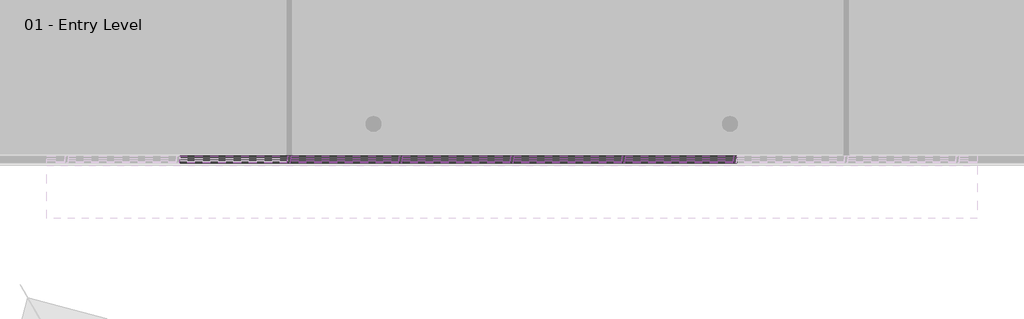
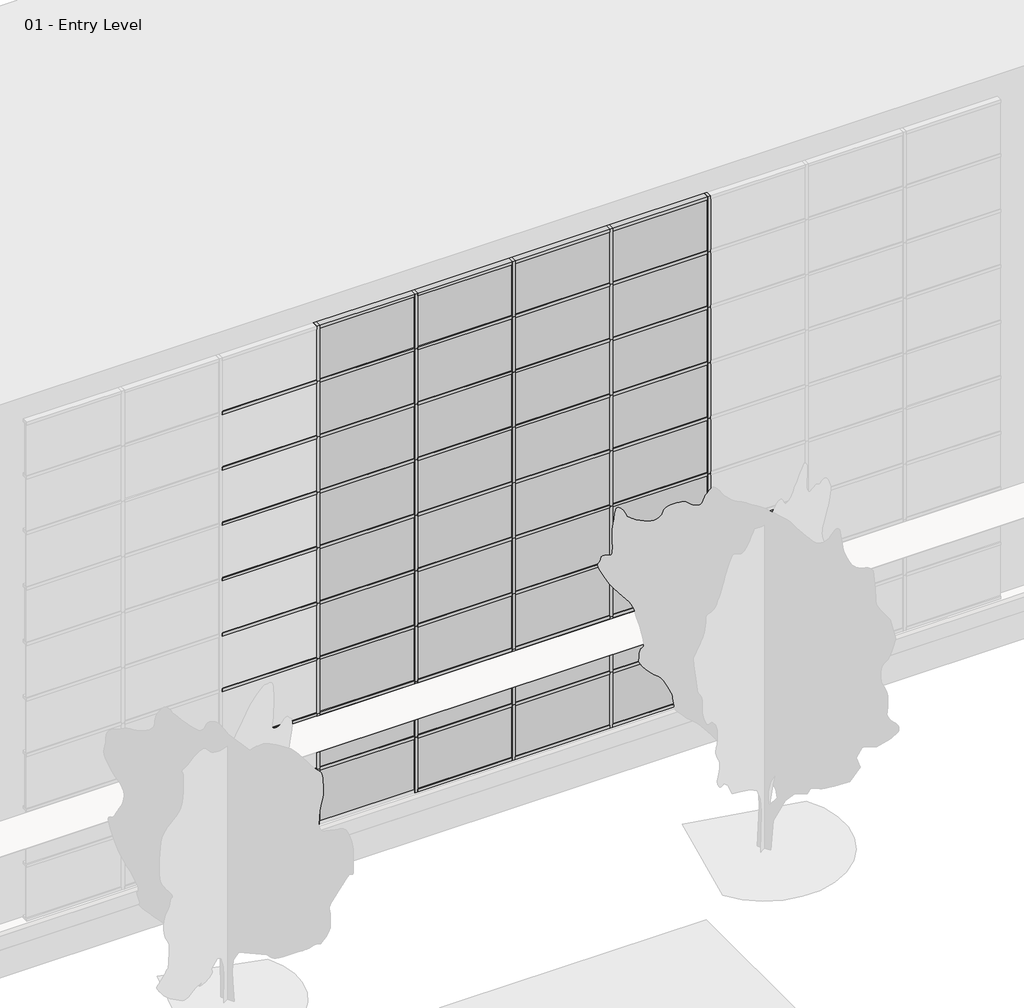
# One storey, part 4 of 35: 93 members, 39 plates.
"""IFC4 building model written with IfcOpenShell, lengths in millimetres."""

import ifcopenshell
import ifcopenshell.guid

model = None  # the IFC model being written
_history = None  # IfcOwnerHistory: only IFC2X3 demands one
_inside = {}  # id of a spatial element -> (the spatial element, [elements in it])
_under = {}  # id of a project, library or spatial element -> (it, [spatial elements below it])
_declared = {}  # id of a project -> (the project, [libraries it declares])
_typed = {}  # id of a type object -> (the type object, [elements of that type])
_made_of = {}  # id of a material, layer set ... -> (it, [elements and type objects made of it])


def new_model(schema):
    """Start an empty IFC model of exactly this schema.

    Asked for "IFC4X3", IfcOpenShell would pick the latest addendum, in which some entities
    have other attributes; the version numbers below select the first issue.
    IFC2X3 requires an IfcOwnerHistory on every rooted entity: one is made here for all.
    """
    global model, _history
    if schema == "IFC4X3":
        model = ifcopenshell.file(schema_version=(4, 3, 0, 0))
    else:
        model = ifcopenshell.file(schema=schema)
    _inside.clear()
    _under.clear()
    _declared.clear()
    _typed.clear()
    _made_of.clear()
    _history = None
    if model.schema == "IFC2X3":
        org = make("IfcOrganization", Name="unknown")
        user = make(
            "IfcPersonAndOrganization",
            ThePerson=make("IfcPerson", FamilyName="unknown"),
            TheOrganization=org,
        )
        app = make(
            "IfcApplication",
            ApplicationDeveloper=org,
            Version="unknown",
            ApplicationFullName="unknown",
            ApplicationIdentifier="unknown",
        )
        _history = make(
            "IfcOwnerHistory",
            OwningUser=user,
            OwningApplication=app,
            ChangeAction="ADDED",
            CreationDate=0,
        )
    return model


def make(cls, **values):
    """One entity of the class cls with the attributes given. An attribute that is None is left unset."""
    return model.create_entity(
        cls, **{name: value for name, value in values.items() if value is not None}
    )


def rooted(cls, **values):
    """An entity with a GlobalId (a new one), such as an element, a storey or a relation."""
    return make(cls, GlobalId=ifcopenshell.guid.new(), OwnerHistory=_history, **values)


def si_unit(unit_type, name, prefix=None):
    """IfcSIUnit, for example si_unit("LENGTHUNIT", "METRE", prefix="MILLI")."""
    return make("IfcSIUnit", UnitType=unit_type, Prefix=prefix, Name=name)


def assignment(units):
    """IfcUnitAssignment: the units of a project."""
    return None if units is None else make("IfcUnitAssignment", Units=units)


def point(xyz):
    """IfcCartesianPoint."""
    return None if xyz is None else make("IfcCartesianPoint", Coordinates=xyz)


def direction(xyz):
    """IfcDirection."""
    return None if xyz is None else make("IfcDirection", DirectionRatios=xyz)


def frame(location, z_axis=None, x_axis=None):
    """IfcAxis2Placement3D, a coordinate frame: its origin and axes. An axis left out is left unset."""
    return make(
        "IfcAxis2Placement3D",
        Location=point(location),
        Axis=direction(z_axis),
        RefDirection=direction(x_axis),
    )


def origin():
    """The frame at (0, 0, 0) with its axes left unset."""
    return frame((0.0, 0.0, 0.0))


def origin_with_axes():
    """The frame at (0, 0, 0) with the z axis (0, 0, 1) and the x axis (1, 0, 0) written out."""
    return frame((0.0, 0.0, 0.0), z_axis=(0.0, 0.0, 1.0), x_axis=(1.0, 0.0, 0.0))


def place(relative_to, where):
    """IfcLocalPlacement: puts the frame where relative to a parent placement (None: the world)."""
    return make(
        "IfcLocalPlacement", PlacementRelTo=relative_to, RelativePlacement=where
    )


def context(
    kind, dimensions, precision=None, world=None, true_north=None, identifier=None
):
    """IfcGeometricRepresentationContext, for example the 3D "Model" context."""
    return make(
        "IfcGeometricRepresentationContext",
        ContextIdentifier=identifier,
        ContextType=kind,
        CoordinateSpaceDimension=dimensions,
        Precision=precision,
        WorldCoordinateSystem=world,
        TrueNorth=true_north,
    )


def project(units=None, contexts=None):
    """IfcProject with its units and contexts."""
    return rooted(
        "IfcProject",
        Name="project",
        RepresentationContexts=contexts,
        UnitsInContext=assignment(units),
    )


def spatial(cls, under=None, at=None, **own):
    """A site, building, storey or space (cls), placed at a placement, below another one or the project."""
    s = rooted(cls, ObjectPlacement=at, **own)
    if under is not None:
        _under.setdefault(under.id(), (under, []))[1].append(s)
    return s


def polyline(points):
    """IfcPolyline through the points."""
    return make("IfcPolyline", Points=[point(p) for p in points])


def outline(outer, holes=None, kind="AREA"):
    """IfcArbitraryClosedProfileDef: a profile drawn as a closed curve; with holes, ...WithVoids."""
    if holes is None:
        return make("IfcArbitraryClosedProfileDef", ProfileType=kind, OuterCurve=outer)
    return make(
        "IfcArbitraryProfileDefWithVoids",
        ProfileType=kind,
        OuterCurve=outer,
        InnerCurves=holes,
    )


def extrude(swept, where, along, depth):
    """IfcExtrudedAreaSolid: the profile swept, set in the frame where, extruded along a direction by depth."""
    return make(
        "IfcExtrudedAreaSolid",
        SweptArea=swept,
        Position=where,
        ExtrudedDirection=direction(along),
        Depth=depth,
    )


def shape(context_of_items, identifier, shape_type, items):
    """IfcShapeRepresentation: the items that make up one representation, for example the "Body"."""
    return make(
        "IfcShapeRepresentation",
        ContextOfItems=context_of_items,
        RepresentationIdentifier=identifier,
        RepresentationType=shape_type,
        Items=items,
    )


def source(mapping_origin, context_of_items, identifier, shape_type, items):
    """IfcRepresentationMap: a shape defined once, which mapped items show again and again."""
    return make(
        "IfcRepresentationMap",
        MappingOrigin=mapping_origin,
        MappedRepresentation=shape(context_of_items, identifier, shape_type, items),
    )


def transform(
    local_origin,
    x_axis=None,
    y_axis=None,
    z_axis=None,
    scale=None,
    scale2=None,
    scale3=None,
    uniform=True,
):
    """IfcCartesianTransformationOperator3D, or its non-uniform kind. x_axis, y_axis, z_axis: its Axis1, 2, 3."""
    if uniform:
        return make(
            "IfcCartesianTransformationOperator3D",
            Axis1=direction(x_axis),
            Axis2=direction(y_axis),
            LocalOrigin=point(local_origin),
            Scale=scale,
            Axis3=direction(z_axis),
        )
    return make(
        "IfcCartesianTransformationOperator3DnonUniform",
        Axis1=direction(x_axis),
        Axis2=direction(y_axis),
        LocalOrigin=point(local_origin),
        Scale=scale,
        Axis3=direction(z_axis),
        Scale2=scale2,
        Scale3=scale3,
    )


def mapped(mapping_source, mapping_target):
    """IfcMappedItem: shows the shape of a source again, moved by a transform."""
    return make(
        "IfcMappedItem", MappingSource=mapping_source, MappingTarget=mapping_target
    )


def made_of(thing, what):
    """Note that an element or type object is made of a material, layer set ...; save() writes the relation."""
    if what is not None:
        _made_of.setdefault(what.id(), (what, []))[1].append(thing)
    return thing


def element(
    cls,
    number,
    at=None,
    inside=None,
    cuts=None,
    type_object=None,
    material=None,
    context=None,
    identifier="Body",
    shape_type=None,
    held_by="IfcProductDefinitionShape",
    body=None,
    shapes=None,
    **own,
):
    """One element of the class cls, such as IfcWall. Its Tag is "e" and its number.

    at: its placement. inside: the storey or other place that contains it. cuts: it is an
    opening in that element (IfcRelVoidsElement). A single representation is given by context,
    identifier, shape_type and body (its items); several are given by shapes. held_by: the class
    of the entity that holds the representations. save() writes the other relations.
    """
    e = rooted(cls, Tag="e%d" % number, ObjectPlacement=at, **own)
    if body is not None:
        shapes = [shape(context, identifier, shape_type, body)]
    if shapes is not None:
        e.Representation = make(held_by, Representations=shapes)
    if inside is not None:
        _inside.setdefault(inside.id(), (inside, []))[1].append(e)
    if cuts is not None:
        rooted(
            "IfcRelVoidsElement", RelatingBuildingElement=cuts, RelatedOpeningElement=e
        )
    if type_object is not None:
        _typed.setdefault(type_object.id(), (type_object, []))[1].append(e)
    return made_of(e, material)


def aggregate(whole, parts):
    """IfcRelAggregates: a whole, such as a stair, and the parts it consists of."""
    return rooted("IfcRelAggregates", RelatingObject=whole, RelatedObjects=parts)


def save(model, path):
    """Write the relations noted so far, then the file.

    IfcRelAggregates (storeys below a building ...), IfcRelContainedInSpatialStructure (elements
    in a storey), IfcRelDefinesByType, IfcRelAssociatesMaterial and IfcRelDeclares: one each for
    every whole, place, type object, material and project.
    """
    for whole, parts in _under.values():
        aggregate(whole, parts)
    for where, things in _inside.values():
        rooted(
            "IfcRelContainedInSpatialStructure",
            RelatedElements=things,
            RelatingStructure=where,
        )
    for kind, things in _typed.values():
        rooted("IfcRelDefinesByType", RelatedObjects=things, RelatingType=kind)
    for what, things in _made_of.values():
        rooted("IfcRelAssociatesMaterial", RelatedObjects=things, RelatingMaterial=what)
    for by, libraries in _declared.values():
        rooted("IfcRelDeclares", RelatingContext=by, RelatedDefinitions=libraries)
    model.write(path)


def member_2b49869a(model_context):
    return source(origin(), model_context, "Body", "SweptSolid", [
        extrude(outline(polyline([(31.75, 63.5), (31.75, -63.5), (-31.75, -63.5), (-31.75, 63.5), (31.75, 63.5)])), frame((0.0, 0.0, -1219.2), z_axis=(0.0, 0.0, 1.0), x_axis=(1.0, 0.0, 0.0)), (0.0, 0.0, 1.0), 1219.2),
    ])


def member_391b434c(model_context):
    return source(origin(), model_context, "Body", "SweptSolid", [
        extrude(outline(polyline([(0.0, 63.5), (0.0, -63.5), (-63.5, -63.5), (-63.5, 63.5), (0.0, 63.5)])), frame((0.0, 0.0, -1968.5), z_axis=(0.0, 0.0, 1.0), x_axis=(1.0, 0.0, 0.0)), (0.0, 0.0, 1.0), 1968.5),
    ])


def member_9e90ae50(model_context):
    return source(origin(), model_context, "Body", "SweptSolid", [
        extrude(outline(polyline([(31.75, 63.5), (31.75, -63.5), (-31.75, -63.5), (-31.75, 63.5), (31.75, 63.5)])), frame((0.0, 0.0, -1968.5), z_axis=(0.0, 0.0, 1.0), x_axis=(1.0, 0.0, 0.0)), (0.0, 0.0, 1.0), 1968.5),
    ])


def system_panel_glazed_1b9d6098(model_context):
    return source(origin(), model_context, "Body", "SweptSolid", [
        extrude(outline(polyline([(984.25, -44.45), (-984.25, -44.45), (-984.25, -19.05), (984.25, -19.05), (984.25, -44.45)])), origin_with_axes(), (0.0, 0.0, 1.0), 1123.95),
    ])


def system_panel_glazed_70da479d(model_context):
    return source(origin(), model_context, "Body", "SweptSolid", [
        extrude(outline(polyline([(984.25, -44.45), (-984.25, -44.45), (-984.25, -19.05), (984.25, -19.05), (984.25, -44.45)])), origin_with_axes(), (0.0, 0.0, 1.0), 1155.7),
    ])


def system_panel_solid_b376696c(model_context):
    return source(origin(), model_context, "Body", "SweptSolid", [
        extrude(outline(polyline([(984.25, -44.45), (-984.25, -44.45), (-984.25, 19.05), (984.25, 19.05), (984.25, -44.45)])), origin_with_axes(), (0.0, 0.0, 1.0), 1123.95),
    ])


def system_panel_solid_77e8b053(model_context):
    return source(origin(), model_context, "Body", "SweptSolid", [
        extrude(outline(polyline([(984.25, -44.45), (-984.25, -44.45), (-984.25, 19.05), (984.25, 19.05), (984.25, -44.45)])), origin_with_axes(), (0.0, 0.0, 1.0), 1155.7),
    ])


model = new_model("IFC4")

# Units and contexts
model_context = context("Model", 3, world=origin())
ifc_project = project(units=[si_unit("LENGTHUNIT", "METRE", prefix="MILLI")], contexts=[model_context])

# Site, building, storey
site = spatial("IfcSite", under=ifc_project)
building = spatial("IfcBuilding", under=site)
storey = spatial("IfcBuildingStorey", under=building, Name="01 - Entry Level", Elevation=0.0)

# Members
placement = place(None, origin())
member_shape = member_2b49869a(model_context)
element("IfcMember", 1, ObjectType="Rectangular Mullion : 2.5\" x 5\" rectangular", at=placement, inside=storey, context=model_context, shape_type="MappedRepresentation", body=[
    mapped(member_shape, transform((40755.2207476, -47.7, 9753.6), x_axis=(1.0, 0.0, 0.0), y_axis=(0.0, -1.0, 0.0), z_axis=(0.0, 0.0, -1.0))),
])
element("IfcMember", 2, ObjectType="Rectangular Mullion : 2.5\" x 5\" rectangular", at=placement, inside=storey, context=model_context, shape_type="MappedRepresentation", body=[
    mapped(member_shape, transform((42787.2207476, -47.7, 9753.6), x_axis=(1.0, 0.0, 0.0), y_axis=(0.0, -1.0, 0.0), z_axis=(0.0, 0.0, -1.0))),
])
element("IfcMember", 3, ObjectType="Rectangular Mullion : 2.5\" x 5\" rectangular", at=placement, inside=storey, context=model_context, shape_type="MappedRepresentation", body=[
    mapped(member_shape, transform((44819.2207476, -47.7, 9753.6), x_axis=(1.0, 0.0, 0.0), y_axis=(0.0, -1.0, 0.0), z_axis=(0.0, 0.0, -1.0))),
])
element("IfcMember", 4, ObjectType="Rectangular Mullion : 2.5\" x 5\" rectangular", at=placement, inside=storey, context=model_context, shape_type="MappedRepresentation", body=[
    mapped(member_shape, transform((46851.2207476, -47.7, 9753.6), x_axis=(1.0, 0.0, 0.0), y_axis=(0.0, -1.0, 0.0), z_axis=(0.0, 0.0, -1.0))),
])
element("IfcMember", 5, ObjectType="Rectangular Mullion : 2.5\" x 5\" rectangular", at=placement, inside=storey, context=model_context, shape_type="MappedRepresentation", body=[
    mapped(member_shape, transform((48883.2207476, -47.7, 9753.6), x_axis=(1.0, 0.0, 0.0), y_axis=(0.0, -1.0, 0.0), z_axis=(0.0, 0.0, -1.0))),
])
member_2_shape = member_391b434c(model_context)
element("IfcMember", 6, ObjectType="Rectangular Mullion : 2.5\" x 5\" rectangular", at=placement, inside=storey, context=model_context, shape_type="MappedRepresentation", body=[
    mapped(member_2_shape, transform((42755.4707476, -47.7, 10972.8), x_axis=(0.0, 0.0, 1.0), y_axis=(0.0, -1.0, 0.0), z_axis=(1.0, 0.0, 0.0))),
])
element("IfcMember", 7, ObjectType="Rectangular Mullion : 2.5\" x 5\" rectangular", at=placement, inside=storey, context=model_context, shape_type="MappedRepresentation", body=[
    mapped(member_2_shape, transform((44787.4707476, -47.7, 10972.8), x_axis=(0.0, 0.0, 1.0), y_axis=(0.0, -1.0, 0.0), z_axis=(1.0, 0.0, 0.0))),
])
element("IfcMember", 8, ObjectType="Rectangular Mullion : 2.5\" x 5\" rectangular", at=placement, inside=storey, context=model_context, shape_type="MappedRepresentation", body=[
    mapped(member_2_shape, transform((46819.4707476, -47.7, 10972.8), x_axis=(0.0, 0.0, 1.0), y_axis=(0.0, -1.0, 0.0), z_axis=(1.0, 0.0, 0.0))),
])
element("IfcMember", 9, ObjectType="Rectangular Mullion : 2.5\" x 5\" rectangular", at=placement, inside=storey, context=model_context, shape_type="MappedRepresentation", body=[
    mapped(member_2_shape, transform((48851.4707476, -47.7, 10972.8), x_axis=(0.0, 0.0, 1.0), y_axis=(0.0, -1.0, 0.0), z_axis=(1.0, 0.0, 0.0))),
])
element("IfcMember", 10, ObjectType="Rectangular Mullion : 2.5\" x 5\" rectangular", at=placement, inside=storey, context=model_context, shape_type="MappedRepresentation", body=[
    mapped(member_2_shape, transform((42818.9707476, -47.7, 0.0), x_axis=(0.0, 0.0, -1.0), y_axis=(0.0, -1.0, 0.0), z_axis=(-1.0, 0.0, 0.0))),
])
element("IfcMember", 11, ObjectType="Rectangular Mullion : 2.5\" x 5\" rectangular", at=placement, inside=storey, context=model_context, shape_type="MappedRepresentation", body=[
    mapped(member_2_shape, transform((44850.9707476, -47.7, 0.0), x_axis=(0.0, 0.0, -1.0), y_axis=(0.0, -1.0, 0.0), z_axis=(-1.0, 0.0, 0.0))),
])
element("IfcMember", 12, ObjectType="Rectangular Mullion : 2.5\" x 5\" rectangular", at=placement, inside=storey, context=model_context, shape_type="MappedRepresentation", body=[
    mapped(member_2_shape, transform((46882.9707476, -47.7, 0.0), x_axis=(0.0, 0.0, -1.0), y_axis=(0.0, -1.0, 0.0), z_axis=(-1.0, 0.0, 0.0))),
])
element("IfcMember", 13, ObjectType="Rectangular Mullion : 2.5\" x 5\" rectangular", at=placement, inside=storey, context=model_context, shape_type="MappedRepresentation", body=[
    mapped(member_2_shape, transform((48914.9707476, -47.7, 0.0), x_axis=(0.0, 0.0, -1.0), y_axis=(0.0, -1.0, 0.0), z_axis=(-1.0, 0.0, 0.0))),
])
member_3_shape = member_9e90ae50(model_context)
element("IfcMember", 14, ObjectType="Rectangular Mullion : 2.5\" x 5\" rectangular", at=placement, inside=storey, context=model_context, shape_type="MappedRepresentation", body=[
    mapped(member_3_shape, transform((40723.4707476, -47.7, 1219.2), x_axis=(0.0, 0.0, 1.0), y_axis=(0.0, -1.0, 0.0), z_axis=(1.0, 0.0, 0.0))),
])
element("IfcMember", 15, ObjectType="Rectangular Mullion : 2.5\" x 5\" rectangular", at=placement, inside=storey, context=model_context, shape_type="MappedRepresentation", body=[
    mapped(member_3_shape, transform((42755.4707476, -47.7, 1219.2), x_axis=(0.0, 0.0, 1.0), y_axis=(0.0, -1.0, 0.0), z_axis=(1.0, 0.0, 0.0))),
])
element("IfcMember", 16, ObjectType="Rectangular Mullion : 2.5\" x 5\" rectangular", at=placement, inside=storey, context=model_context, shape_type="MappedRepresentation", body=[
    mapped(member_3_shape, transform((44787.4707476, -47.7, 1219.2), x_axis=(0.0, 0.0, 1.0), y_axis=(0.0, -1.0, 0.0), z_axis=(1.0, 0.0, 0.0))),
])
element("IfcMember", 17, ObjectType="Rectangular Mullion : 2.5\" x 5\" rectangular", at=placement, inside=storey, context=model_context, shape_type="MappedRepresentation", body=[
    mapped(member_3_shape, transform((46819.4707476, -47.7, 1219.2), x_axis=(0.0, 0.0, 1.0), y_axis=(0.0, -1.0, 0.0), z_axis=(1.0, 0.0, 0.0))),
])
element("IfcMember", 18, ObjectType="Rectangular Mullion : 2.5\" x 5\" rectangular", at=placement, inside=storey, context=model_context, shape_type="MappedRepresentation", body=[
    mapped(member_3_shape, transform((48851.4707476, -47.7, 1219.2), x_axis=(0.0, 0.0, 1.0), y_axis=(0.0, -1.0, 0.0), z_axis=(1.0, 0.0, 0.0))),
])
element("IfcMember", 19, ObjectType="Rectangular Mullion : 2.5\" x 5\" rectangular", at=placement, inside=storey, context=model_context, shape_type="MappedRepresentation", body=[
    mapped(member_3_shape, transform((40723.4707476, -47.7, 2438.4), x_axis=(0.0, 0.0, 1.0), y_axis=(0.0, -1.0, 0.0), z_axis=(1.0, 0.0, 0.0))),
])
element("IfcMember", 20, ObjectType="Rectangular Mullion : 2.5\" x 5\" rectangular", at=placement, inside=storey, context=model_context, shape_type="MappedRepresentation", body=[
    mapped(member_3_shape, transform((42755.4707476, -47.7, 2438.4), x_axis=(0.0, 0.0, 1.0), y_axis=(0.0, -1.0, 0.0), z_axis=(1.0, 0.0, 0.0))),
])
element("IfcMember", 21, ObjectType="Rectangular Mullion : 2.5\" x 5\" rectangular", at=placement, inside=storey, context=model_context, shape_type="MappedRepresentation", body=[
    mapped(member_3_shape, transform((44787.4707476, -47.7, 2438.4), x_axis=(0.0, 0.0, 1.0), y_axis=(0.0, -1.0, 0.0), z_axis=(1.0, 0.0, 0.0))),
])
element("IfcMember", 22, ObjectType="Rectangular Mullion : 2.5\" x 5\" rectangular", at=placement, inside=storey, context=model_context, shape_type="MappedRepresentation", body=[
    mapped(member_3_shape, transform((46819.4707476, -47.7, 2438.4), x_axis=(0.0, 0.0, 1.0), y_axis=(0.0, -1.0, 0.0), z_axis=(1.0, 0.0, 0.0))),
])
element("IfcMember", 23, ObjectType="Rectangular Mullion : 2.5\" x 5\" rectangular", at=placement, inside=storey, context=model_context, shape_type="MappedRepresentation", body=[
    mapped(member_3_shape, transform((48851.4707476, -47.7, 2438.4), x_axis=(0.0, 0.0, 1.0), y_axis=(0.0, -1.0, 0.0), z_axis=(1.0, 0.0, 0.0))),
])
element("IfcMember", 24, ObjectType="Rectangular Mullion : 2.5\" x 5\" rectangular", at=placement, inside=storey, context=model_context, shape_type="MappedRepresentation", body=[
    mapped(member_3_shape, transform((40723.4707476, -47.7, 3657.6), x_axis=(0.0, 0.0, 1.0), y_axis=(0.0, -1.0, 0.0), z_axis=(1.0, 0.0, 0.0))),
])
element("IfcMember", 25, ObjectType="Rectangular Mullion : 2.5\" x 5\" rectangular", at=placement, inside=storey, context=model_context, shape_type="MappedRepresentation", body=[
    mapped(member_3_shape, transform((42755.4707476, -47.7, 3657.6), x_axis=(0.0, 0.0, 1.0), y_axis=(0.0, -1.0, 0.0), z_axis=(1.0, 0.0, 0.0))),
])
element("IfcMember", 26, ObjectType="Rectangular Mullion : 2.5\" x 5\" rectangular", at=placement, inside=storey, context=model_context, shape_type="MappedRepresentation", body=[
    mapped(member_3_shape, transform((44787.4707476, -47.7, 3657.6), x_axis=(0.0, 0.0, 1.0), y_axis=(0.0, -1.0, 0.0), z_axis=(1.0, 0.0, 0.0))),
])
element("IfcMember", 27, ObjectType="Rectangular Mullion : 2.5\" x 5\" rectangular", at=placement, inside=storey, context=model_context, shape_type="MappedRepresentation", body=[
    mapped(member_3_shape, transform((46819.4707476, -47.7, 3657.6), x_axis=(0.0, 0.0, 1.0), y_axis=(0.0, -1.0, 0.0), z_axis=(1.0, 0.0, 0.0))),
])
element("IfcMember", 28, ObjectType="Rectangular Mullion : 2.5\" x 5\" rectangular", at=placement, inside=storey, context=model_context, shape_type="MappedRepresentation", body=[
    mapped(member_3_shape, transform((48851.4707476, -47.7, 3657.6), x_axis=(0.0, 0.0, 1.0), y_axis=(0.0, -1.0, 0.0), z_axis=(1.0, 0.0, 0.0))),
])
element("IfcMember", 29, ObjectType="Rectangular Mullion : 2.5\" x 5\" rectangular", at=placement, inside=storey, context=model_context, shape_type="MappedRepresentation", body=[
    mapped(member_3_shape, transform((40723.4707476, -47.7, 4876.8), x_axis=(0.0, 0.0, 1.0), y_axis=(0.0, -1.0, 0.0), z_axis=(1.0, 0.0, 0.0))),
])
element("IfcMember", 30, ObjectType="Rectangular Mullion : 2.5\" x 5\" rectangular", at=placement, inside=storey, context=model_context, shape_type="MappedRepresentation", body=[
    mapped(member_3_shape, transform((42755.4707476, -47.7, 4876.8), x_axis=(0.0, 0.0, 1.0), y_axis=(0.0, -1.0, 0.0), z_axis=(1.0, 0.0, 0.0))),
])
element("IfcMember", 31, ObjectType="Rectangular Mullion : 2.5\" x 5\" rectangular", at=placement, inside=storey, context=model_context, shape_type="MappedRepresentation", body=[
    mapped(member_3_shape, transform((44787.4707476, -47.7, 4876.8), x_axis=(0.0, 0.0, 1.0), y_axis=(0.0, -1.0, 0.0), z_axis=(1.0, 0.0, 0.0))),
])
element("IfcMember", 32, ObjectType="Rectangular Mullion : 2.5\" x 5\" rectangular", at=placement, inside=storey, context=model_context, shape_type="MappedRepresentation", body=[
    mapped(member_3_shape, transform((46819.4707476, -47.7, 4876.8), x_axis=(0.0, 0.0, 1.0), y_axis=(0.0, -1.0, 0.0), z_axis=(1.0, 0.0, 0.0))),
])
element("IfcMember", 33, ObjectType="Rectangular Mullion : 2.5\" x 5\" rectangular", at=placement, inside=storey, context=model_context, shape_type="MappedRepresentation", body=[
    mapped(member_3_shape, transform((48851.4707476, -47.7, 4876.8), x_axis=(0.0, 0.0, 1.0), y_axis=(0.0, -1.0, 0.0), z_axis=(1.0, 0.0, 0.0))),
])
element("IfcMember", 34, ObjectType="Rectangular Mullion : 2.5\" x 5\" rectangular", at=placement, inside=storey, context=model_context, shape_type="MappedRepresentation", body=[
    mapped(member_3_shape, transform((40723.4707476, -47.7, 6096.0), x_axis=(0.0, 0.0, 1.0), y_axis=(0.0, -1.0, 0.0), z_axis=(1.0, 0.0, 0.0))),
])
element("IfcMember", 35, ObjectType="Rectangular Mullion : 2.5\" x 5\" rectangular", at=placement, inside=storey, context=model_context, shape_type="MappedRepresentation", body=[
    mapped(member_3_shape, transform((42755.4707476, -47.7, 6096.0), x_axis=(0.0, 0.0, 1.0), y_axis=(0.0, -1.0, 0.0), z_axis=(1.0, 0.0, 0.0))),
])
element("IfcMember", 36, ObjectType="Rectangular Mullion : 2.5\" x 5\" rectangular", at=placement, inside=storey, context=model_context, shape_type="MappedRepresentation", body=[
    mapped(member_3_shape, transform((44787.4707476, -47.7, 6096.0), x_axis=(0.0, 0.0, 1.0), y_axis=(0.0, -1.0, 0.0), z_axis=(1.0, 0.0, 0.0))),
])
element("IfcMember", 37, ObjectType="Rectangular Mullion : 2.5\" x 5\" rectangular", at=placement, inside=storey, context=model_context, shape_type="MappedRepresentation", body=[
    mapped(member_3_shape, transform((46819.4707476, -47.7, 6096.0), x_axis=(0.0, 0.0, 1.0), y_axis=(0.0, -1.0, 0.0), z_axis=(1.0, 0.0, 0.0))),
])
element("IfcMember", 38, ObjectType="Rectangular Mullion : 2.5\" x 5\" rectangular", at=placement, inside=storey, context=model_context, shape_type="MappedRepresentation", body=[
    mapped(member_3_shape, transform((48851.4707476, -47.7, 6096.0), x_axis=(0.0, 0.0, 1.0), y_axis=(0.0, -1.0, 0.0), z_axis=(1.0, 0.0, 0.0))),
])
element("IfcMember", 39, ObjectType="Rectangular Mullion : 2.5\" x 5\" rectangular", at=placement, inside=storey, context=model_context, shape_type="MappedRepresentation", body=[
    mapped(member_3_shape, transform((40723.4707476, -47.7, 7315.2), x_axis=(0.0, 0.0, 1.0), y_axis=(0.0, -1.0, 0.0), z_axis=(1.0, 0.0, 0.0))),
])
element("IfcMember", 40, ObjectType="Rectangular Mullion : 2.5\" x 5\" rectangular", at=placement, inside=storey, context=model_context, shape_type="MappedRepresentation", body=[
    mapped(member_3_shape, transform((42755.4707476, -47.7, 7315.2), x_axis=(0.0, 0.0, 1.0), y_axis=(0.0, -1.0, 0.0), z_axis=(1.0, 0.0, 0.0))),
])
element("IfcMember", 41, ObjectType="Rectangular Mullion : 2.5\" x 5\" rectangular", at=placement, inside=storey, context=model_context, shape_type="MappedRepresentation", body=[
    mapped(member_3_shape, transform((44787.4707476, -47.7, 7315.2), x_axis=(0.0, 0.0, 1.0), y_axis=(0.0, -1.0, 0.0), z_axis=(1.0, 0.0, 0.0))),
])
element("IfcMember", 42, ObjectType="Rectangular Mullion : 2.5\" x 5\" rectangular", at=placement, inside=storey, context=model_context, shape_type="MappedRepresentation", body=[
    mapped(member_3_shape, transform((46819.4707476, -47.7, 7315.2), x_axis=(0.0, 0.0, 1.0), y_axis=(0.0, -1.0, 0.0), z_axis=(1.0, 0.0, 0.0))),
])
element("IfcMember", 43, ObjectType="Rectangular Mullion : 2.5\" x 5\" rectangular", at=placement, inside=storey, context=model_context, shape_type="MappedRepresentation", body=[
    mapped(member_3_shape, transform((48851.4707476, -47.7, 7315.2), x_axis=(0.0, 0.0, 1.0), y_axis=(0.0, -1.0, 0.0), z_axis=(1.0, 0.0, 0.0))),
])
element("IfcMember", 44, ObjectType="Rectangular Mullion : 2.5\" x 5\" rectangular", at=placement, inside=storey, context=model_context, shape_type="MappedRepresentation", body=[
    mapped(member_3_shape, transform((40723.4707476, -47.7, 8534.4), x_axis=(0.0, 0.0, 1.0), y_axis=(0.0, -1.0, 0.0), z_axis=(1.0, 0.0, 0.0))),
])
element("IfcMember", 45, ObjectType="Rectangular Mullion : 2.5\" x 5\" rectangular", at=placement, inside=storey, context=model_context, shape_type="MappedRepresentation", body=[
    mapped(member_3_shape, transform((42755.4707476, -47.7, 8534.4), x_axis=(0.0, 0.0, 1.0), y_axis=(0.0, -1.0, 0.0), z_axis=(1.0, 0.0, 0.0))),
])
element("IfcMember", 46, ObjectType="Rectangular Mullion : 2.5\" x 5\" rectangular", at=placement, inside=storey, context=model_context, shape_type="MappedRepresentation", body=[
    mapped(member_3_shape, transform((44787.4707476, -47.7, 8534.4), x_axis=(0.0, 0.0, 1.0), y_axis=(0.0, -1.0, 0.0), z_axis=(1.0, 0.0, 0.0))),
])
element("IfcMember", 47, ObjectType="Rectangular Mullion : 2.5\" x 5\" rectangular", at=placement, inside=storey, context=model_context, shape_type="MappedRepresentation", body=[
    mapped(member_3_shape, transform((46819.4707476, -47.7, 8534.4), x_axis=(0.0, 0.0, 1.0), y_axis=(0.0, -1.0, 0.0), z_axis=(1.0, 0.0, 0.0))),
])
element("IfcMember", 48, ObjectType="Rectangular Mullion : 2.5\" x 5\" rectangular", at=placement, inside=storey, context=model_context, shape_type="MappedRepresentation", body=[
    mapped(member_3_shape, transform((48851.4707476, -47.7, 8534.4), x_axis=(0.0, 0.0, 1.0), y_axis=(0.0, -1.0, 0.0), z_axis=(1.0, 0.0, 0.0))),
])
element("IfcMember", 49, ObjectType="Rectangular Mullion : 2.5\" x 5\" rectangular", at=placement, inside=storey, context=model_context, shape_type="MappedRepresentation", body=[
    mapped(member_3_shape, transform((40723.4707476, -47.7, 9753.6), x_axis=(0.0, 0.0, 1.0), y_axis=(0.0, -1.0, 0.0), z_axis=(1.0, 0.0, 0.0))),
])
element("IfcMember", 50, ObjectType="Rectangular Mullion : 2.5\" x 5\" rectangular", at=placement, inside=storey, context=model_context, shape_type="MappedRepresentation", body=[
    mapped(member_3_shape, transform((42755.4707476, -47.7, 9753.6), x_axis=(0.0, 0.0, 1.0), y_axis=(0.0, -1.0, 0.0), z_axis=(1.0, 0.0, 0.0))),
])
element("IfcMember", 51, ObjectType="Rectangular Mullion : 2.5\" x 5\" rectangular", at=placement, inside=storey, context=model_context, shape_type="MappedRepresentation", body=[
    mapped(member_3_shape, transform((44787.4707476, -47.7, 9753.6), x_axis=(0.0, 0.0, 1.0), y_axis=(0.0, -1.0, 0.0), z_axis=(1.0, 0.0, 0.0))),
])
element("IfcMember", 52, ObjectType="Rectangular Mullion : 2.5\" x 5\" rectangular", at=placement, inside=storey, context=model_context, shape_type="MappedRepresentation", body=[
    mapped(member_3_shape, transform((46819.4707476, -47.7, 9753.6), x_axis=(0.0, 0.0, 1.0), y_axis=(0.0, -1.0, 0.0), z_axis=(1.0, 0.0, 0.0))),
])
element("IfcMember", 53, ObjectType="Rectangular Mullion : 2.5\" x 5\" rectangular", at=placement, inside=storey, context=model_context, shape_type="MappedRepresentation", body=[
    mapped(member_3_shape, transform((48851.4707476, -47.7, 9753.6), x_axis=(0.0, 0.0, 1.0), y_axis=(0.0, -1.0, 0.0), z_axis=(1.0, 0.0, 0.0))),
])
element("IfcMember", 54, ObjectType="Rectangular Mullion : 2.5\" x 5\" rectangular", at=placement, inside=storey, context=model_context, shape_type="MappedRepresentation", body=[
    mapped(member_shape, transform((40755.2207476, -47.7, 0.0), x_axis=(1.0, 0.0, 0.0), y_axis=(0.0, -1.0, 0.0), z_axis=(0.0, 0.0, -1.0))),
])
element("IfcMember", 55, ObjectType="Rectangular Mullion : 2.5\" x 5\" rectangular", at=placement, inside=storey, context=model_context, shape_type="MappedRepresentation", body=[
    mapped(member_shape, transform((42787.2207476, -47.7, 0.0), x_axis=(1.0, 0.0, 0.0), y_axis=(0.0, -1.0, 0.0), z_axis=(0.0, 0.0, -1.0))),
])
element("IfcMember", 56, ObjectType="Rectangular Mullion : 2.5\" x 5\" rectangular", at=placement, inside=storey, context=model_context, shape_type="MappedRepresentation", body=[
    mapped(member_shape, transform((44819.2207476, -47.7, 0.0), x_axis=(1.0, 0.0, 0.0), y_axis=(0.0, -1.0, 0.0), z_axis=(0.0, 0.0, -1.0))),
])
element("IfcMember", 57, ObjectType="Rectangular Mullion : 2.5\" x 5\" rectangular", at=placement, inside=storey, context=model_context, shape_type="MappedRepresentation", body=[
    mapped(member_shape, transform((46851.2207476, -47.7, 0.0), x_axis=(1.0, 0.0, 0.0), y_axis=(0.0, -1.0, 0.0), z_axis=(0.0, 0.0, -1.0))),
])
element("IfcMember", 58, ObjectType="Rectangular Mullion : 2.5\" x 5\" rectangular", at=placement, inside=storey, context=model_context, shape_type="MappedRepresentation", body=[
    mapped(member_shape, transform((48883.2207476, -47.7, 0.0), x_axis=(1.0, 0.0, 0.0), y_axis=(0.0, -1.0, 0.0), z_axis=(0.0, 0.0, -1.0))),
])
element("IfcMember", 59, ObjectType="Rectangular Mullion : 2.5\" x 5\" rectangular", at=placement, inside=storey, context=model_context, shape_type="MappedRepresentation", body=[
    mapped(member_shape, transform((40755.2207476, -47.7, 1219.2), x_axis=(1.0, 0.0, 0.0), y_axis=(0.0, -1.0, 0.0), z_axis=(0.0, 0.0, -1.0))),
])
element("IfcMember", 60, ObjectType="Rectangular Mullion : 2.5\" x 5\" rectangular", at=placement, inside=storey, context=model_context, shape_type="MappedRepresentation", body=[
    mapped(member_shape, transform((42787.2207476, -47.7, 1219.2), x_axis=(1.0, 0.0, 0.0), y_axis=(0.0, -1.0, 0.0), z_axis=(0.0, 0.0, -1.0))),
])
element("IfcMember", 61, ObjectType="Rectangular Mullion : 2.5\" x 5\" rectangular", at=placement, inside=storey, context=model_context, shape_type="MappedRepresentation", body=[
    mapped(member_shape, transform((44819.2207476, -47.7, 1219.2), x_axis=(1.0, 0.0, 0.0), y_axis=(0.0, -1.0, 0.0), z_axis=(0.0, 0.0, -1.0))),
])
element("IfcMember", 62, ObjectType="Rectangular Mullion : 2.5\" x 5\" rectangular", at=placement, inside=storey, context=model_context, shape_type="MappedRepresentation", body=[
    mapped(member_shape, transform((46851.2207476, -47.7, 1219.2), x_axis=(1.0, 0.0, 0.0), y_axis=(0.0, -1.0, 0.0), z_axis=(0.0, 0.0, -1.0))),
])
element("IfcMember", 63, ObjectType="Rectangular Mullion : 2.5\" x 5\" rectangular", at=placement, inside=storey, context=model_context, shape_type="MappedRepresentation", body=[
    mapped(member_shape, transform((48883.2207476, -47.7, 1219.2), x_axis=(1.0, 0.0, 0.0), y_axis=(0.0, -1.0, 0.0), z_axis=(0.0, 0.0, -1.0))),
])
element("IfcMember", 64, ObjectType="Rectangular Mullion : 2.5\" x 5\" rectangular", at=placement, inside=storey, context=model_context, shape_type="MappedRepresentation", body=[
    mapped(member_shape, transform((40755.2207476, -47.7, 2438.4), x_axis=(1.0, 0.0, 0.0), y_axis=(0.0, -1.0, 0.0), z_axis=(0.0, 0.0, -1.0))),
])
element("IfcMember", 65, ObjectType="Rectangular Mullion : 2.5\" x 5\" rectangular", at=placement, inside=storey, context=model_context, shape_type="MappedRepresentation", body=[
    mapped(member_shape, transform((42787.2207476, -47.7, 2438.4), x_axis=(1.0, 0.0, 0.0), y_axis=(0.0, -1.0, 0.0), z_axis=(0.0, 0.0, -1.0))),
])
element("IfcMember", 66, ObjectType="Rectangular Mullion : 2.5\" x 5\" rectangular", at=placement, inside=storey, context=model_context, shape_type="MappedRepresentation", body=[
    mapped(member_shape, transform((44819.2207476, -47.7, 2438.4), x_axis=(1.0, 0.0, 0.0), y_axis=(0.0, -1.0, 0.0), z_axis=(0.0, 0.0, -1.0))),
])
element("IfcMember", 67, ObjectType="Rectangular Mullion : 2.5\" x 5\" rectangular", at=placement, inside=storey, context=model_context, shape_type="MappedRepresentation", body=[
    mapped(member_shape, transform((46851.2207476, -47.7, 2438.4), x_axis=(1.0, 0.0, 0.0), y_axis=(0.0, -1.0, 0.0), z_axis=(0.0, 0.0, -1.0))),
])
element("IfcMember", 68, ObjectType="Rectangular Mullion : 2.5\" x 5\" rectangular", at=placement, inside=storey, context=model_context, shape_type="MappedRepresentation", body=[
    mapped(member_shape, transform((48883.2207476, -47.7, 2438.4), x_axis=(1.0, 0.0, 0.0), y_axis=(0.0, -1.0, 0.0), z_axis=(0.0, 0.0, -1.0))),
])
element("IfcMember", 69, ObjectType="Rectangular Mullion : 2.5\" x 5\" rectangular", at=placement, inside=storey, context=model_context, shape_type="MappedRepresentation", body=[
    mapped(member_shape, transform((40755.2207476, -47.7, 3657.6), x_axis=(1.0, 0.0, 0.0), y_axis=(0.0, -1.0, 0.0), z_axis=(0.0, 0.0, -1.0))),
])
element("IfcMember", 70, ObjectType="Rectangular Mullion : 2.5\" x 5\" rectangular", at=placement, inside=storey, context=model_context, shape_type="MappedRepresentation", body=[
    mapped(member_shape, transform((42787.2207476, -47.7, 3657.6), x_axis=(1.0, 0.0, 0.0), y_axis=(0.0, -1.0, 0.0), z_axis=(0.0, 0.0, -1.0))),
])
element("IfcMember", 71, ObjectType="Rectangular Mullion : 2.5\" x 5\" rectangular", at=placement, inside=storey, context=model_context, shape_type="MappedRepresentation", body=[
    mapped(member_shape, transform((44819.2207476, -47.7, 3657.6), x_axis=(1.0, 0.0, 0.0), y_axis=(0.0, -1.0, 0.0), z_axis=(0.0, 0.0, -1.0))),
])
element("IfcMember", 72, ObjectType="Rectangular Mullion : 2.5\" x 5\" rectangular", at=placement, inside=storey, context=model_context, shape_type="MappedRepresentation", body=[
    mapped(member_shape, transform((46851.2207476, -47.7, 3657.6), x_axis=(1.0, 0.0, 0.0), y_axis=(0.0, -1.0, 0.0), z_axis=(0.0, 0.0, -1.0))),
])
element("IfcMember", 73, ObjectType="Rectangular Mullion : 2.5\" x 5\" rectangular", at=placement, inside=storey, context=model_context, shape_type="MappedRepresentation", body=[
    mapped(member_shape, transform((48883.2207476, -47.7, 3657.6), x_axis=(1.0, 0.0, 0.0), y_axis=(0.0, -1.0, 0.0), z_axis=(0.0, 0.0, -1.0))),
])
element("IfcMember", 74, ObjectType="Rectangular Mullion : 2.5\" x 5\" rectangular", at=placement, inside=storey, context=model_context, shape_type="MappedRepresentation", body=[
    mapped(member_shape, transform((40755.2207476, -47.7, 4876.8), x_axis=(1.0, 0.0, 0.0), y_axis=(0.0, -1.0, 0.0), z_axis=(0.0, 0.0, -1.0))),
])
element("IfcMember", 75, ObjectType="Rectangular Mullion : 2.5\" x 5\" rectangular", at=placement, inside=storey, context=model_context, shape_type="MappedRepresentation", body=[
    mapped(member_shape, transform((42787.2207476, -47.7, 4876.8), x_axis=(1.0, 0.0, 0.0), y_axis=(0.0, -1.0, 0.0), z_axis=(0.0, 0.0, -1.0))),
])
element("IfcMember", 76, ObjectType="Rectangular Mullion : 2.5\" x 5\" rectangular", at=placement, inside=storey, context=model_context, shape_type="MappedRepresentation", body=[
    mapped(member_shape, transform((44819.2207476, -47.7, 4876.8), x_axis=(1.0, 0.0, 0.0), y_axis=(0.0, -1.0, 0.0), z_axis=(0.0, 0.0, -1.0))),
])
element("IfcMember", 77, ObjectType="Rectangular Mullion : 2.5\" x 5\" rectangular", at=placement, inside=storey, context=model_context, shape_type="MappedRepresentation", body=[
    mapped(member_shape, transform((46851.2207476, -47.7, 4876.8), x_axis=(1.0, 0.0, 0.0), y_axis=(0.0, -1.0, 0.0), z_axis=(0.0, 0.0, -1.0))),
])
element("IfcMember", 78, ObjectType="Rectangular Mullion : 2.5\" x 5\" rectangular", at=placement, inside=storey, context=model_context, shape_type="MappedRepresentation", body=[
    mapped(member_shape, transform((48883.2207476, -47.7, 4876.8), x_axis=(1.0, 0.0, 0.0), y_axis=(0.0, -1.0, 0.0), z_axis=(0.0, 0.0, -1.0))),
])
element("IfcMember", 79, ObjectType="Rectangular Mullion : 2.5\" x 5\" rectangular", at=placement, inside=storey, context=model_context, shape_type="MappedRepresentation", body=[
    mapped(member_shape, transform((40755.2207476, -47.7, 6096.0), x_axis=(1.0, 0.0, 0.0), y_axis=(0.0, -1.0, 0.0), z_axis=(0.0, 0.0, -1.0))),
])
element("IfcMember", 80, ObjectType="Rectangular Mullion : 2.5\" x 5\" rectangular", at=placement, inside=storey, context=model_context, shape_type="MappedRepresentation", body=[
    mapped(member_shape, transform((42787.2207476, -47.7, 6096.0), x_axis=(1.0, 0.0, 0.0), y_axis=(0.0, -1.0, 0.0), z_axis=(0.0, 0.0, -1.0))),
])
element("IfcMember", 81, ObjectType="Rectangular Mullion : 2.5\" x 5\" rectangular", at=placement, inside=storey, context=model_context, shape_type="MappedRepresentation", body=[
    mapped(member_shape, transform((44819.2207476, -47.7, 6096.0), x_axis=(1.0, 0.0, 0.0), y_axis=(0.0, -1.0, 0.0), z_axis=(0.0, 0.0, -1.0))),
])
element("IfcMember", 82, ObjectType="Rectangular Mullion : 2.5\" x 5\" rectangular", at=placement, inside=storey, context=model_context, shape_type="MappedRepresentation", body=[
    mapped(member_shape, transform((46851.2207476, -47.7, 6096.0), x_axis=(1.0, 0.0, 0.0), y_axis=(0.0, -1.0, 0.0), z_axis=(0.0, 0.0, -1.0))),
])
element("IfcMember", 83, ObjectType="Rectangular Mullion : 2.5\" x 5\" rectangular", at=placement, inside=storey, context=model_context, shape_type="MappedRepresentation", body=[
    mapped(member_shape, transform((48883.2207476, -47.7, 6096.0), x_axis=(1.0, 0.0, 0.0), y_axis=(0.0, -1.0, 0.0), z_axis=(0.0, 0.0, -1.0))),
])
element("IfcMember", 84, ObjectType="Rectangular Mullion : 2.5\" x 5\" rectangular", at=placement, inside=storey, context=model_context, shape_type="MappedRepresentation", body=[
    mapped(member_shape, transform((40755.2207476, -47.7, 7315.2), x_axis=(1.0, 0.0, 0.0), y_axis=(0.0, -1.0, 0.0), z_axis=(0.0, 0.0, -1.0))),
])
element("IfcMember", 85, ObjectType="Rectangular Mullion : 2.5\" x 5\" rectangular", at=placement, inside=storey, context=model_context, shape_type="MappedRepresentation", body=[
    mapped(member_shape, transform((42787.2207476, -47.7, 7315.2), x_axis=(1.0, 0.0, 0.0), y_axis=(0.0, -1.0, 0.0), z_axis=(0.0, 0.0, -1.0))),
])
element("IfcMember", 86, ObjectType="Rectangular Mullion : 2.5\" x 5\" rectangular", at=placement, inside=storey, context=model_context, shape_type="MappedRepresentation", body=[
    mapped(member_shape, transform((44819.2207476, -47.7, 7315.2), x_axis=(1.0, 0.0, 0.0), y_axis=(0.0, -1.0, 0.0), z_axis=(0.0, 0.0, -1.0))),
])
element("IfcMember", 87, ObjectType="Rectangular Mullion : 2.5\" x 5\" rectangular", at=placement, inside=storey, context=model_context, shape_type="MappedRepresentation", body=[
    mapped(member_shape, transform((46851.2207476, -47.7, 7315.2), x_axis=(1.0, 0.0, 0.0), y_axis=(0.0, -1.0, 0.0), z_axis=(0.0, 0.0, -1.0))),
])
element("IfcMember", 88, ObjectType="Rectangular Mullion : 2.5\" x 5\" rectangular", at=placement, inside=storey, context=model_context, shape_type="MappedRepresentation", body=[
    mapped(member_shape, transform((48883.2207476, -47.7, 7315.2), x_axis=(1.0, 0.0, 0.0), y_axis=(0.0, -1.0, 0.0), z_axis=(0.0, 0.0, -1.0))),
])
element("IfcMember", 89, ObjectType="Rectangular Mullion : 2.5\" x 5\" rectangular", at=placement, inside=storey, context=model_context, shape_type="MappedRepresentation", body=[
    mapped(member_shape, transform((40755.2207476, -47.7, 8534.4), x_axis=(1.0, 0.0, 0.0), y_axis=(0.0, -1.0, 0.0), z_axis=(0.0, 0.0, -1.0))),
])
element("IfcMember", 90, ObjectType="Rectangular Mullion : 2.5\" x 5\" rectangular", at=placement, inside=storey, context=model_context, shape_type="MappedRepresentation", body=[
    mapped(member_shape, transform((42787.2207476, -47.7, 8534.4), x_axis=(1.0, 0.0, 0.0), y_axis=(0.0, -1.0, 0.0), z_axis=(0.0, 0.0, -1.0))),
])
element("IfcMember", 91, ObjectType="Rectangular Mullion : 2.5\" x 5\" rectangular", at=placement, inside=storey, context=model_context, shape_type="MappedRepresentation", body=[
    mapped(member_shape, transform((44819.2207476, -47.7, 8534.4), x_axis=(1.0, 0.0, 0.0), y_axis=(0.0, -1.0, 0.0), z_axis=(0.0, 0.0, -1.0))),
])
element("IfcMember", 92, ObjectType="Rectangular Mullion : 2.5\" x 5\" rectangular", at=placement, inside=storey, context=model_context, shape_type="MappedRepresentation", body=[
    mapped(member_shape, transform((46851.2207476, -47.7, 8534.4), x_axis=(1.0, 0.0, 0.0), y_axis=(0.0, -1.0, 0.0), z_axis=(0.0, 0.0, -1.0))),
])
element("IfcMember", 93, ObjectType="Rectangular Mullion : 2.5\" x 5\" rectangular", at=placement, inside=storey, context=model_context, shape_type="MappedRepresentation", body=[
    mapped(member_shape, transform((48883.2207476, -47.7, 8534.4), x_axis=(1.0, 0.0, 0.0), y_axis=(0.0, -1.0, 0.0), z_axis=(0.0, 0.0, -1.0))),
])

# Plates
system_panel_glazed_shape = system_panel_glazed_1b9d6098(model_context)
element("IfcPlate", 94, ObjectType="System Panel : Glazed", at=placement, inside=storey, context=model_context, shape_type="MappedRepresentation", body=[
    mapped(system_panel_glazed_shape, transform((41771.2207476, -47.7, 63.5), x_axis=(1.0, 0.0, 0.0), y_axis=(0.0, 1.0, 0.0), z_axis=(0.0, 0.0, 1.0))),
])
element("IfcPlate", 95, ObjectType="System Panel : Glazed", at=placement, inside=storey, context=model_context, shape_type="MappedRepresentation", body=[
    mapped(system_panel_glazed_shape, transform((43803.2207476, -47.7, 63.5), x_axis=(1.0, 0.0, 0.0), y_axis=(0.0, 1.0, 0.0), z_axis=(0.0, 0.0, 1.0))),
])
element("IfcPlate", 96, ObjectType="System Panel : Glazed", at=placement, inside=storey, context=model_context, shape_type="MappedRepresentation", body=[
    mapped(system_panel_glazed_shape, transform((45835.2207476, -47.7, 63.5), x_axis=(1.0, 0.0, 0.0), y_axis=(0.0, 1.0, 0.0), z_axis=(0.0, 0.0, 1.0))),
])
element("IfcPlate", 97, ObjectType="System Panel : Glazed", at=placement, inside=storey, context=model_context, shape_type="MappedRepresentation", body=[
    mapped(system_panel_glazed_shape, transform((47867.2207476, -47.7, 63.5), x_axis=(1.0, 0.0, 0.0), y_axis=(0.0, 1.0, 0.0), z_axis=(0.0, 0.0, 1.0))),
])
element("IfcPlate", 98, ObjectType="System Panel : Glazed", at=placement, inside=storey, context=model_context, shape_type="MappedRepresentation", body=[
    mapped(system_panel_glazed_shape, transform((49899.2207476, -47.7, 63.5), x_axis=(1.0, 0.0, 0.0), y_axis=(0.0, 1.0, 0.0), z_axis=(0.0, 0.0, 1.0))),
])
system_panel_glazed_2_shape = system_panel_glazed_70da479d(model_context)
element("IfcPlate", 99, ObjectType="System Panel : Glazed", at=placement, inside=storey, context=model_context, shape_type="MappedRepresentation", body=[
    mapped(system_panel_glazed_2_shape, transform((41771.2207476, -47.7, 1250.95), x_axis=(1.0, 0.0, 0.0), y_axis=(0.0, 1.0, 0.0), z_axis=(0.0, 0.0, 1.0))),
])
element("IfcPlate", 100, ObjectType="System Panel : Glazed", at=placement, inside=storey, context=model_context, shape_type="MappedRepresentation", body=[
    mapped(system_panel_glazed_2_shape, transform((43803.2207476, -47.7, 1250.95), x_axis=(1.0, 0.0, 0.0), y_axis=(0.0, 1.0, 0.0), z_axis=(0.0, 0.0, 1.0))),
])
element("IfcPlate", 101, ObjectType="System Panel : Glazed", at=placement, inside=storey, context=model_context, shape_type="MappedRepresentation", body=[
    mapped(system_panel_glazed_2_shape, transform((45835.2207476, -47.7, 1250.95), x_axis=(1.0, 0.0, 0.0), y_axis=(0.0, 1.0, 0.0), z_axis=(0.0, 0.0, 1.0))),
])
element("IfcPlate", 102, ObjectType="System Panel : Glazed", at=placement, inside=storey, context=model_context, shape_type="MappedRepresentation", body=[
    mapped(system_panel_glazed_2_shape, transform((47867.2207476, -47.7, 1250.95), x_axis=(1.0, 0.0, 0.0), y_axis=(0.0, 1.0, 0.0), z_axis=(0.0, 0.0, 1.0))),
])
element("IfcPlate", 103, ObjectType="System Panel : Glazed", at=placement, inside=storey, context=model_context, shape_type="MappedRepresentation", body=[
    mapped(system_panel_glazed_2_shape, transform((49899.2207476, -47.7, 1250.95), x_axis=(1.0, 0.0, 0.0), y_axis=(0.0, 1.0, 0.0), z_axis=(0.0, 0.0, 1.0))),
])
element("IfcPlate", 104, ObjectType="System Panel : Glazed", at=placement, inside=storey, context=model_context, shape_type="MappedRepresentation", body=[
    mapped(system_panel_glazed_2_shape, transform((41771.2207476, -47.7, 3689.35), x_axis=(1.0, 0.0, 0.0), y_axis=(0.0, 1.0, 0.0), z_axis=(0.0, 0.0, 1.0))),
])
element("IfcPlate", 105, ObjectType="System Panel : Glazed", at=placement, inside=storey, context=model_context, shape_type="MappedRepresentation", body=[
    mapped(system_panel_glazed_2_shape, transform((43803.2207476, -47.7, 3689.35), x_axis=(1.0, 0.0, 0.0), y_axis=(0.0, 1.0, 0.0), z_axis=(0.0, 0.0, 1.0))),
])
element("IfcPlate", 106, ObjectType="System Panel : Glazed", at=placement, inside=storey, context=model_context, shape_type="MappedRepresentation", body=[
    mapped(system_panel_glazed_2_shape, transform((45835.2207476, -47.7, 3689.35), x_axis=(1.0, 0.0, 0.0), y_axis=(0.0, 1.0, 0.0), z_axis=(0.0, 0.0, 1.0))),
])
element("IfcPlate", 107, ObjectType="System Panel : Glazed", at=placement, inside=storey, context=model_context, shape_type="MappedRepresentation", body=[
    mapped(system_panel_glazed_2_shape, transform((47867.2207476, -47.7, 3689.35), x_axis=(1.0, 0.0, 0.0), y_axis=(0.0, 1.0, 0.0), z_axis=(0.0, 0.0, 1.0))),
])
element("IfcPlate", 108, ObjectType="System Panel : Glazed", at=placement, inside=storey, context=model_context, shape_type="MappedRepresentation", body=[
    mapped(system_panel_glazed_2_shape, transform((41771.2207476, -47.7, 4908.55), x_axis=(1.0, 0.0, 0.0), y_axis=(0.0, 1.0, 0.0), z_axis=(0.0, 0.0, 1.0))),
])
element("IfcPlate", 109, ObjectType="System Panel : Glazed", at=placement, inside=storey, context=model_context, shape_type="MappedRepresentation", body=[
    mapped(system_panel_glazed_2_shape, transform((43803.2207476, -47.7, 4908.55), x_axis=(1.0, 0.0, 0.0), y_axis=(0.0, 1.0, 0.0), z_axis=(0.0, 0.0, 1.0))),
])
element("IfcPlate", 110, ObjectType="System Panel : Glazed", at=placement, inside=storey, context=model_context, shape_type="MappedRepresentation", body=[
    mapped(system_panel_glazed_2_shape, transform((45835.2207476, -47.7, 4908.55), x_axis=(1.0, 0.0, 0.0), y_axis=(0.0, 1.0, 0.0), z_axis=(0.0, 0.0, 1.0))),
])
element("IfcPlate", 111, ObjectType="System Panel : Glazed", at=placement, inside=storey, context=model_context, shape_type="MappedRepresentation", body=[
    mapped(system_panel_glazed_2_shape, transform((47867.2207476, -47.7, 4908.55), x_axis=(1.0, 0.0, 0.0), y_axis=(0.0, 1.0, 0.0), z_axis=(0.0, 0.0, 1.0))),
])
element("IfcPlate", 112, ObjectType="System Panel : Glazed", at=placement, inside=storey, context=model_context, shape_type="MappedRepresentation", body=[
    mapped(system_panel_glazed_2_shape, transform((41771.2207476, -47.7, 7346.95), x_axis=(1.0, 0.0, 0.0), y_axis=(0.0, 1.0, 0.0), z_axis=(0.0, 0.0, 1.0))),
])
element("IfcPlate", 113, ObjectType="System Panel : Glazed", at=placement, inside=storey, context=model_context, shape_type="MappedRepresentation", body=[
    mapped(system_panel_glazed_2_shape, transform((43803.2207476, -47.7, 7346.95), x_axis=(1.0, 0.0, 0.0), y_axis=(0.0, 1.0, 0.0), z_axis=(0.0, 0.0, 1.0))),
])
element("IfcPlate", 114, ObjectType="System Panel : Glazed", at=placement, inside=storey, context=model_context, shape_type="MappedRepresentation", body=[
    mapped(system_panel_glazed_2_shape, transform((45835.2207476, -47.7, 7346.95), x_axis=(1.0, 0.0, 0.0), y_axis=(0.0, 1.0, 0.0), z_axis=(0.0, 0.0, 1.0))),
])
element("IfcPlate", 115, ObjectType="System Panel : Glazed", at=placement, inside=storey, context=model_context, shape_type="MappedRepresentation", body=[
    mapped(system_panel_glazed_2_shape, transform((47867.2207476, -47.7, 7346.95), x_axis=(1.0, 0.0, 0.0), y_axis=(0.0, 1.0, 0.0), z_axis=(0.0, 0.0, 1.0))),
])
element("IfcPlate", 116, ObjectType="System Panel : Glazed", at=placement, inside=storey, context=model_context, shape_type="MappedRepresentation", body=[
    mapped(system_panel_glazed_2_shape, transform((41771.2207476, -47.7, 8566.15), x_axis=(1.0, 0.0, 0.0), y_axis=(0.0, 1.0, 0.0), z_axis=(0.0, 0.0, 1.0))),
])
element("IfcPlate", 117, ObjectType="System Panel : Glazed", at=placement, inside=storey, context=model_context, shape_type="MappedRepresentation", body=[
    mapped(system_panel_glazed_2_shape, transform((43803.2207476, -47.7, 8566.15), x_axis=(1.0, 0.0, 0.0), y_axis=(0.0, 1.0, 0.0), z_axis=(0.0, 0.0, 1.0))),
])
element("IfcPlate", 118, ObjectType="System Panel : Glazed", at=placement, inside=storey, context=model_context, shape_type="MappedRepresentation", body=[
    mapped(system_panel_glazed_2_shape, transform((45835.2207476, -47.7, 8566.15), x_axis=(1.0, 0.0, 0.0), y_axis=(0.0, 1.0, 0.0), z_axis=(0.0, 0.0, 1.0))),
])
element("IfcPlate", 119, ObjectType="System Panel : Glazed", at=placement, inside=storey, context=model_context, shape_type="MappedRepresentation", body=[
    mapped(system_panel_glazed_2_shape, transform((47867.2207476, -47.7, 8566.15), x_axis=(1.0, 0.0, 0.0), y_axis=(0.0, 1.0, 0.0), z_axis=(0.0, 0.0, 1.0))),
])
system_panel_solid_shape = system_panel_solid_b376696c(model_context)
element("IfcPlate", 120, ObjectType="System Panel : Solid", at=placement, inside=storey, context=model_context, shape_type="MappedRepresentation", body=[
    mapped(system_panel_solid_shape, transform((41771.2207476, -47.7, 9785.35), x_axis=(1.0, 0.0, 0.0), y_axis=(0.0, 1.0, 0.0), z_axis=(0.0, 0.0, 1.0))),
])
element("IfcPlate", 121, ObjectType="System Panel : Solid", at=placement, inside=storey, context=model_context, shape_type="MappedRepresentation", body=[
    mapped(system_panel_solid_shape, transform((43803.2207476, -47.7, 9785.35), x_axis=(1.0, 0.0, 0.0), y_axis=(0.0, 1.0, 0.0), z_axis=(0.0, 0.0, 1.0))),
])
element("IfcPlate", 122, ObjectType="System Panel : Solid", at=placement, inside=storey, context=model_context, shape_type="MappedRepresentation", body=[
    mapped(system_panel_solid_shape, transform((45835.2207476, -47.7, 9785.35), x_axis=(1.0, 0.0, 0.0), y_axis=(0.0, 1.0, 0.0), z_axis=(0.0, 0.0, 1.0))),
])
element("IfcPlate", 123, ObjectType="System Panel : Solid", at=placement, inside=storey, context=model_context, shape_type="MappedRepresentation", body=[
    mapped(system_panel_solid_shape, transform((47867.2207476, -47.7, 9785.35), x_axis=(1.0, 0.0, 0.0), y_axis=(0.0, 1.0, 0.0), z_axis=(0.0, 0.0, 1.0))),
])
system_panel_solid_2_shape = system_panel_solid_77e8b053(model_context)
element("IfcPlate", 124, ObjectType="System Panel : Solid", at=placement, inside=storey, context=model_context, shape_type="MappedRepresentation", body=[
    mapped(system_panel_solid_2_shape, transform((41771.2207476, -47.7, 2470.15), x_axis=(1.0, 0.0, 0.0), y_axis=(0.0, 1.0, 0.0), z_axis=(0.0, 0.0, 1.0))),
])
element("IfcPlate", 125, ObjectType="System Panel : Solid", at=placement, inside=storey, context=model_context, shape_type="MappedRepresentation", body=[
    mapped(system_panel_solid_2_shape, transform((43803.2207476, -47.7, 2470.15), x_axis=(1.0, 0.0, 0.0), y_axis=(0.0, 1.0, 0.0), z_axis=(0.0, 0.0, 1.0))),
])
element("IfcPlate", 126, ObjectType="System Panel : Solid", at=placement, inside=storey, context=model_context, shape_type="MappedRepresentation", body=[
    mapped(system_panel_solid_2_shape, transform((45835.2207476, -47.7, 2470.15), x_axis=(1.0, 0.0, 0.0), y_axis=(0.0, 1.0, 0.0), z_axis=(0.0, 0.0, 1.0))),
])
element("IfcPlate", 127, ObjectType="System Panel : Solid", at=placement, inside=storey, context=model_context, shape_type="MappedRepresentation", body=[
    mapped(system_panel_solid_2_shape, transform((47867.2207476, -47.7, 2470.15), x_axis=(1.0, 0.0, 0.0), y_axis=(0.0, 1.0, 0.0), z_axis=(0.0, 0.0, 1.0))),
])
element("IfcPlate", 128, ObjectType="System Panel : Solid", at=placement, inside=storey, context=model_context, shape_type="MappedRepresentation", body=[
    mapped(system_panel_solid_2_shape, transform((49899.2207476, -47.7, 2470.15), x_axis=(1.0, 0.0, 0.0), y_axis=(0.0, 1.0, 0.0), z_axis=(0.0, 0.0, 1.0))),
])
element("IfcPlate", 129, ObjectType="System Panel : Solid", at=placement, inside=storey, context=model_context, shape_type="MappedRepresentation", body=[
    mapped(system_panel_solid_2_shape, transform((41771.2207476, -47.7, 6127.75), x_axis=(1.0, 0.0, 0.0), y_axis=(0.0, 1.0, 0.0), z_axis=(0.0, 0.0, 1.0))),
])
element("IfcPlate", 130, ObjectType="System Panel : Solid", at=placement, inside=storey, context=model_context, shape_type="MappedRepresentation", body=[
    mapped(system_panel_solid_2_shape, transform((43803.2207476, -47.7, 6127.75), x_axis=(1.0, 0.0, 0.0), y_axis=(0.0, 1.0, 0.0), z_axis=(0.0, 0.0, 1.0))),
])
element("IfcPlate", 131, ObjectType="System Panel : Solid", at=placement, inside=storey, context=model_context, shape_type="MappedRepresentation", body=[
    mapped(system_panel_solid_2_shape, transform((45835.2207476, -47.7, 6127.75), x_axis=(1.0, 0.0, 0.0), y_axis=(0.0, 1.0, 0.0), z_axis=(0.0, 0.0, 1.0))),
])
element("IfcPlate", 132, ObjectType="System Panel : Solid", at=placement, inside=storey, context=model_context, shape_type="MappedRepresentation", body=[
    mapped(system_panel_solid_2_shape, transform((47867.2207476, -47.7, 6127.75), x_axis=(1.0, 0.0, 0.0), y_axis=(0.0, 1.0, 0.0), z_axis=(0.0, 0.0, 1.0))),
])

save(model, "model.ifc")
